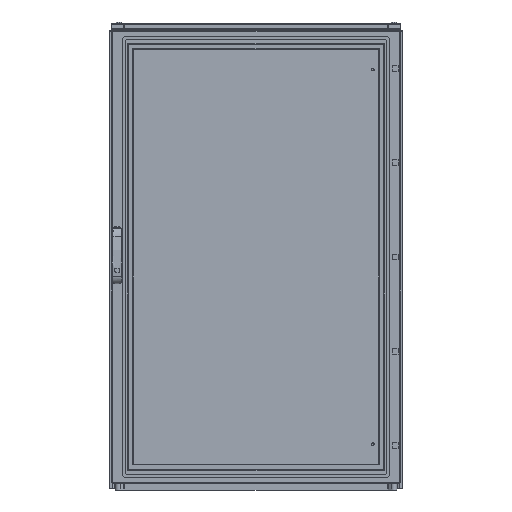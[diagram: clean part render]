
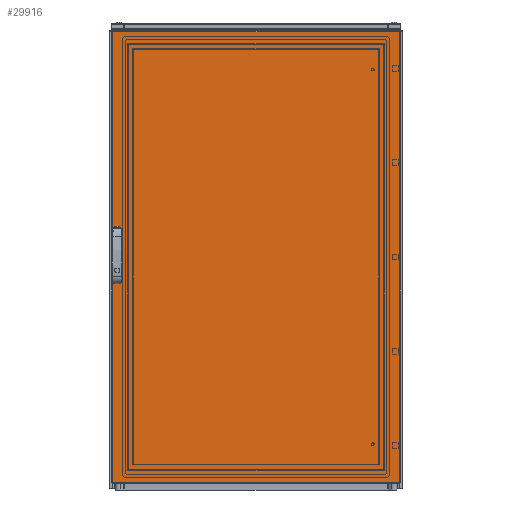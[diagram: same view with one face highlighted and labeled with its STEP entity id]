
A CAD part, front view. The second image highlights one B-rep face of the part: STEP entity #29916.
In plain terms, the highlighted planar face has unit normal (0, -1, 0).
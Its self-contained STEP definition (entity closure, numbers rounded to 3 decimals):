
#1860=CIRCLE('',#32529,9.5);
#1861=CIRCLE('',#32530,9.5);
#1862=CIRCLE('',#32531,9.5);
#1863=CIRCLE('',#32532,9.5);
#7638=ORIENTED_EDGE('',*,*,#13554,.T.);
#7639=ORIENTED_EDGE('',*,*,#13555,.T.);
#7640=ORIENTED_EDGE('',*,*,#13556,.T.);
#7641=ORIENTED_EDGE('',*,*,#13557,.T.);
#7642=ORIENTED_EDGE('',*,*,#13558,.T.);
#7643=ORIENTED_EDGE('',*,*,#13559,.T.);
#7644=ORIENTED_EDGE('',*,*,#13560,.T.);
#7645=ORIENTED_EDGE('',*,*,#13561,.T.);
#7646=ORIENTED_EDGE('',*,*,#13562,.T.);
#7647=ORIENTED_EDGE('',*,*,#13563,.T.);
#7648=ORIENTED_EDGE('',*,*,#13564,.T.);
#7649=ORIENTED_EDGE('',*,*,#13565,.T.);
#13554=EDGE_CURVE('',#16975,#16976,#19803,.T.);
#13555=EDGE_CURVE('',#16976,#16977,#19804,.F.);
#13556=EDGE_CURVE('',#16977,#16978,#19805,.F.);
#13557=EDGE_CURVE('',#16978,#16975,#19806,.T.);
#13558=EDGE_CURVE('',#16979,#16980,#1860,.T.);
#13559=EDGE_CURVE('',#16980,#16981,#19807,.T.);
#13560=EDGE_CURVE('',#16981,#16982,#1861,.T.);
#13561=EDGE_CURVE('',#16982,#16979,#19808,.T.);
#13562=EDGE_CURVE('',#16983,#16984,#1862,.T.);
#13563=EDGE_CURVE('',#16984,#16985,#19809,.T.);
#13564=EDGE_CURVE('',#16985,#16986,#1863,.T.);
#13565=EDGE_CURVE('',#16986,#16983,#19810,.T.);
#16975=VERTEX_POINT('',#48390);
#16976=VERTEX_POINT('',#48391);
#16977=VERTEX_POINT('',#48393);
#16978=VERTEX_POINT('',#48395);
#16979=VERTEX_POINT('',#48398);
#16980=VERTEX_POINT('',#48399);
#16981=VERTEX_POINT('',#48401);
#16982=VERTEX_POINT('',#48403);
#16983=VERTEX_POINT('',#48406);
#16984=VERTEX_POINT('',#48407);
#16985=VERTEX_POINT('',#48409);
#16986=VERTEX_POINT('',#48411);
#19803=LINE('',#48389,#22368);
#19804=LINE('',#48392,#22369);
#19805=LINE('',#48394,#22370);
#19806=LINE('',#48396,#22371);
#19807=LINE('',#48400,#22372);
#19808=LINE('',#48404,#22373);
#19809=LINE('',#48408,#22374);
#19810=LINE('',#48412,#22375);
#22368=VECTOR('',#39276,1000.);
#22369=VECTOR('',#39277,1000.);
#22370=VECTOR('',#39278,1000.);
#22371=VECTOR('',#39279,1000.);
#22372=VECTOR('',#39282,1000.);
#22373=VECTOR('',#39285,1000.);
#22374=VECTOR('',#39288,1000.);
#22375=VECTOR('',#39291,1000.);
#24544=EDGE_LOOP('',(#7638,#7639,#7640,#7641));
#24545=EDGE_LOOP('',(#7642,#7643,#7644,#7645));
#24546=EDGE_LOOP('',(#7646,#7647,#7648,#7649));
#26980=FACE_BOUND('',#24544,.T.);
#26981=FACE_BOUND('',#24545,.T.);
#26982=FACE_BOUND('',#24546,.T.);
#28681=PLANE('',#32528);
#29916=ADVANCED_FACE('',(#26980,#26981,#26982),#28681,.F.);
#32528=AXIS2_PLACEMENT_3D('',#48388,#39274,#39275);
#32529=AXIS2_PLACEMENT_3D('',#48397,#39280,#39281);
#32530=AXIS2_PLACEMENT_3D('',#48402,#39283,#39284);
#32531=AXIS2_PLACEMENT_3D('',#48405,#39286,#39287);
#32532=AXIS2_PLACEMENT_3D('',#48410,#39289,#39290);
#39274=DIRECTION('',(0.,1.,0.));
#39275=DIRECTION('',(0.,0.,1.));
#39276=DIRECTION('',(1.,0.,0.));
#39277=DIRECTION('',(0.,0.,-1.));
#39278=DIRECTION('',(1.,0.,0.));
#39279=DIRECTION('',(0.,0.,-1.));
#39280=DIRECTION('',(0.,1.,0.));
#39281=DIRECTION('',(1.,0.,0.));
#39282=DIRECTION('',(0.,0.,1.));
#39283=DIRECTION('',(0.,1.,0.));
#39284=DIRECTION('',(1.,0.,0.));
#39285=DIRECTION('',(0.,0.,-1.));
#39286=DIRECTION('',(0.,1.,0.));
#39287=DIRECTION('',(1.,0.,0.));
#39288=DIRECTION('',(0.,0.,1.));
#39289=DIRECTION('',(0.,1.,0.));
#39290=DIRECTION('',(1.,0.,0.));
#39291=DIRECTION('',(0.,0.,-1.));
#48388=CARTESIAN_POINT('',(-497.5,-19.,780.));
#48389=CARTESIAN_POINT('',(-497.5,-19.,-777.));
#48390=CARTESIAN_POINT('',(-494.5,-19.,-777.));
#48391=CARTESIAN_POINT('',(494.5,-19.,-777.));
#48392=CARTESIAN_POINT('',(494.5,-19.,780.));
#48393=CARTESIAN_POINT('',(494.5,-19.,777.));
#48394=CARTESIAN_POINT('',(-497.5,-19.,777.));
#48395=CARTESIAN_POINT('',(-494.5,-19.,777.));
#48396=CARTESIAN_POINT('',(-494.5,-19.,780.));
#48397=CARTESIAN_POINT('',(-478.3,-19.,32.25));
#48398=CARTESIAN_POINT('',(-468.8,-19.,32.25));
#48399=CARTESIAN_POINT('',(-487.8,-19.,32.25));
#48400=CARTESIAN_POINT('',(-487.8,-19.,32.25));
#48401=CARTESIAN_POINT('',(-487.8,-19.,80.25));
#48402=CARTESIAN_POINT('',(-478.3,-19.,80.25));
#48403=CARTESIAN_POINT('',(-468.8,-19.,80.25));
#48404=CARTESIAN_POINT('',(-468.8,-19.,80.25));
#48405=CARTESIAN_POINT('',(-478.3,-19.,-80.25));
#48406=CARTESIAN_POINT('',(-468.8,-19.,-80.25));
#48407=CARTESIAN_POINT('',(-487.8,-19.,-80.25));
#48408=CARTESIAN_POINT('',(-487.8,-19.,-80.25));
#48409=CARTESIAN_POINT('',(-487.8,-19.,-32.25));
#48410=CARTESIAN_POINT('',(-478.3,-19.,-32.25));
#48411=CARTESIAN_POINT('',(-468.8,-19.,-32.25));
#48412=CARTESIAN_POINT('',(-468.8,-19.,-32.25));
